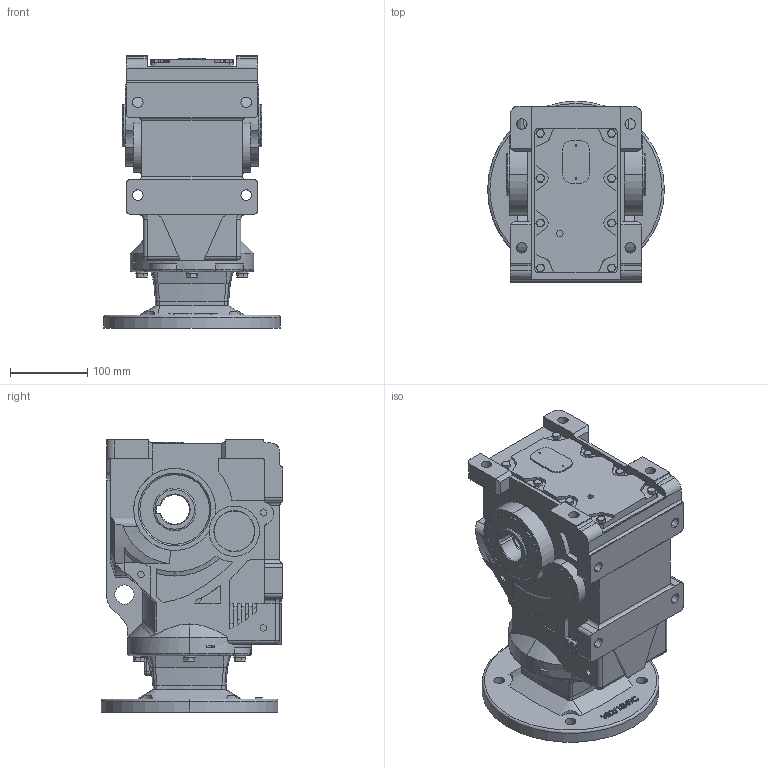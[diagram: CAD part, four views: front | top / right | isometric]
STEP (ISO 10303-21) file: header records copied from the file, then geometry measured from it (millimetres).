
FILE_DESCRIPTION (( 'STEP AP203' ), '1' );
FILE_NAME ('KHN67-182-4TC.STEP', '2022-04-07T08:25:23', ( 'user1' ), ( '' ), 'SwSTEP 2.0', 'SolidWorks 2012', '' );
FILE_SCHEMA (( 'CONFIG_CONTROL_DESIGN' ));
Length unit declared in the file: millimetre
Products named in the file (1): KHN67-182-4TC
Bounding box: 228.6 x 235.25 x 352 mm (x, y, z)
Volume: 8405017.3 mm3; surface area: 460850.1 mm2
Topology: 1 solids, 1 shells, 1018 faces, 2681 edges, 1740 vertices
Faces by surface type: plane 547, cylinder 226, bspline 150, cone 71, torus 21, sphere 3
Entity records: 42456 total; most frequent: CARTESIAN_POINT 18242, ORIENTED_EDGE 5354, DIRECTION 4424, EDGE_CURVE 2677, VERTEX_POINT 1740, LINE 1558, VECTOR 1558, AXIS2_PLACEMENT_3D 1433
